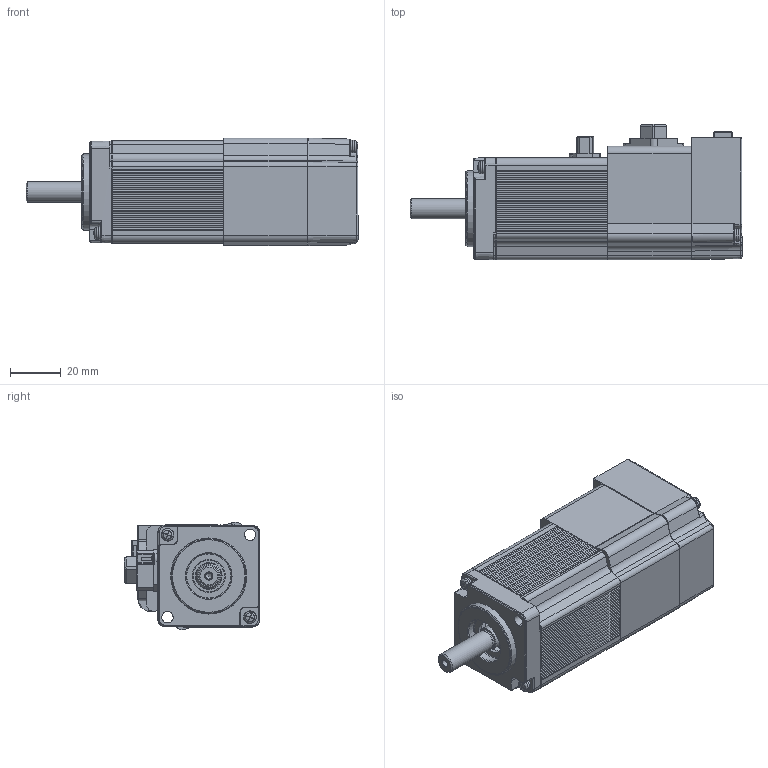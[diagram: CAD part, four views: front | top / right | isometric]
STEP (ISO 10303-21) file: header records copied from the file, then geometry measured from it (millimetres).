
FILE_DESCRIPTION (( 'STEP AP203' ), '1' );
FILE_NAME ('40-100W_BR(¿Ü°ü¿ë).STEP', '2022-09-07T04:48:55', ( '' ), ( '' ), 'SwSTEP 2.0', 'SolidWorks 2020', '' );
FILE_SCHEMA (( 'CONFIG_CONTROL_DESIGN' ));
Length unit declared in the file: millimetre
Products named in the file (10): 40-100W_BR(諼婦辨); K3D-JN14FH04PJ1-V1_JAE_Proprietary.step; 40陝 Щ溯歜滲唳ヶ; ﹤40 ENCODER COVER_棻檜議蝶た 陛奢紫; 40-100W BRAKESHAFT; 40-100W BRAKE BRACKET(乔泼栏肺 荐沥); SC-MC2P-A1.stp; K3D-JN14AH04NJ1-V1_JAE(receptacle; ﹤40 FLANGE_棻檜議蝶た 陛奢紫; m2.5x45_ル遽
Assembly tree (12 placements, depth 2):
  40-100W_BR(諼婦辨)
    K3D-JN14AH04NJ1-V1_JAE(receptacle
    K3D-JN14FH04PJ1-V1_JAE_Proprietary.step
    40-100W BRAKESHAFT
    ﹤40 ENCODER COVER_棻檜議蝶た 陛奢紫
    ﹤40 FLANGE_棻檜議蝶た 陛奢紫
    m2.5x45_ル遽  x4
    40陝 Щ溯歜滲唳ヶ
    40-100W BRAKE BRACKET(乔泼栏肺 荐沥)
    SC-MC2P-A1.stp
Bounding box: 130.8 x 53.41 x 42.41 mm (x, y, z)
Volume: 86504.9 mm3; surface area: 52516.8 mm2
Topology: 12 solids, 12 shells, 1644 faces, 4232 edges, 2686 vertices
Faces by surface type: plane 915, cylinder 384, bspline 202, cone 83, torus 50, sphere 10
Full cylindrical faces by diameter (mm): 1.6 x6, 2 x8, 2.4 x1, 2.499 x2, 2.5 x4, 2.6 x4, 3 x3, 3.4 x3, 5 x5, 5.5 x1, 6 x2, 7.7 x1, 8 x2, 8.8 x1, 9 x2, 9.9 x1, 10 x1, 13 x1, 14.5 x1, 16 x2, 18 x1, 19 x1, 20.3 x1, 22 x1, 30 x1, 36.2 x1, 36.9 x1, 37.2 x1, 37.6 x1
Entity records: 50236 total; most frequent: CARTESIAN_POINT 12818, ORIENTED_EDGE 7748, DIRECTION 6943, EDGE_CURVE 3874, VECTOR 2525, LINE 2525, VERTEX_POINT 2520, AXIS2_PLACEMENT_3D 2209
